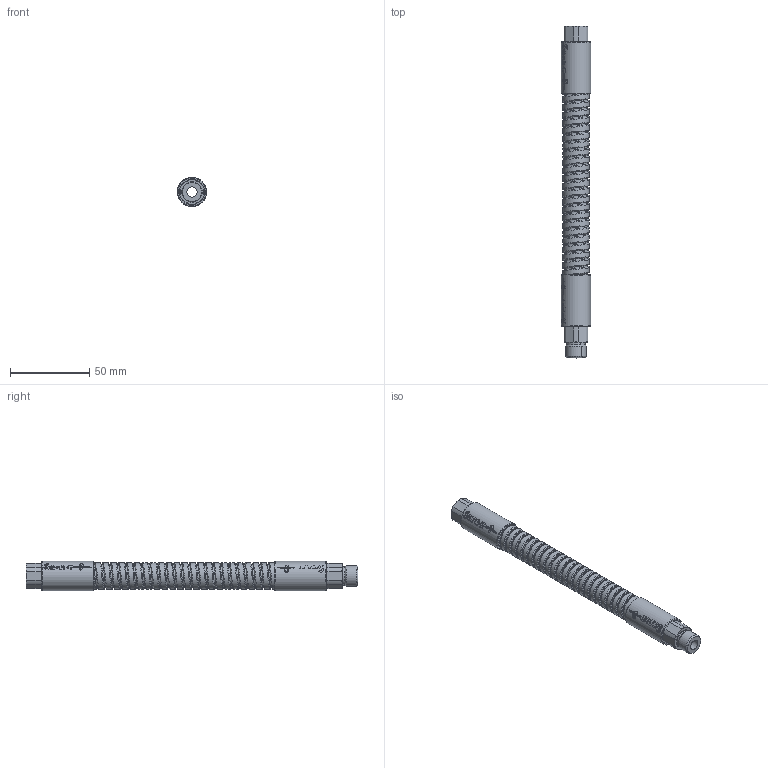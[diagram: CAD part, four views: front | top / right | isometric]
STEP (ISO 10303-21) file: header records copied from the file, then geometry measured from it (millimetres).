
FILE_DESCRIPTION (( 'STEP AP203' ), '1' );
FILE_NAME ('FB14-200.STEP', '2019-09-10T05:08:07', ( '' ), ( '' ), 'SwSTEP 2.0', 'SolidWorks 2016', '' );
FILE_SCHEMA (( 'CONFIG_CONTROL_DESIGN' ));
Length unit declared in the file: millimetre
Products named in the file (1): FB14-200
Bounding box: 18.48 x 210 x 18.48 mm (x, y, z)
Surface area: 22465 mm2 (no closed solid volume)
Topology: 0 solids, 5 shells, 181 faces, 1569 edges, 1398 vertices
Faces by surface type: cylinder 110, cone 23, plane 20, torus 18, bspline 10
Entity records: 44471 total; most frequent: CARTESIAN_POINT 34870, ORIENTED_EDGE 3079, EDGE_CURVE 1569, VERTEX_POINT 1398, B_SPLINE_CURVE_WITH_KNOTS 1294, DIRECTION 725, AXIS2_PLACEMENT_3D 285, EDGE_LOOP 195
